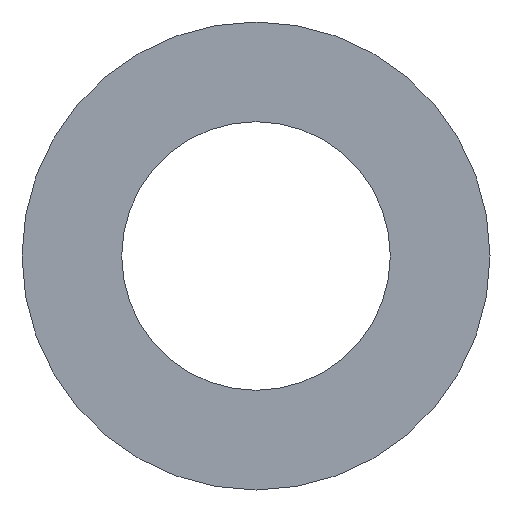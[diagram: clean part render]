
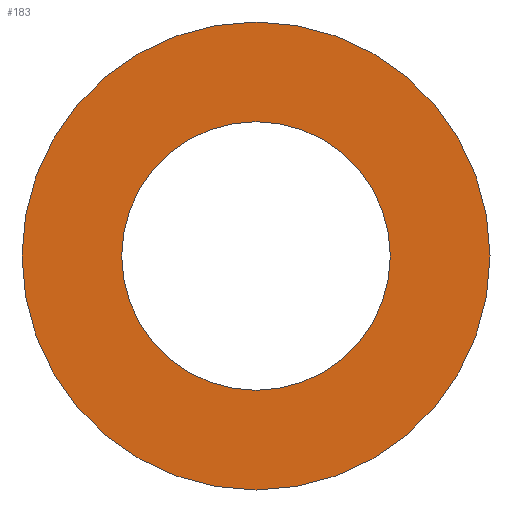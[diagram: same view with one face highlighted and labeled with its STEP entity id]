
A CAD part, left-side view. The second image highlights one B-rep face of the part: STEP entity #183.
In plain terms, the highlighted planar face has unit normal (-1, 0, 0).
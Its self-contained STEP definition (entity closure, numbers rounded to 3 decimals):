
#33=CARTESIAN_POINT('',(0.,69.,0.));
#34=VERTEX_POINT('',#33);
#41=CARTESIAN_POINT('',(0.,0.,0.));
#42=DIRECTION('',(1.,0.,0.));
#43=DIRECTION('',(0.,1.,0.));
#44=AXIS2_PLACEMENT_3D('',#41,#42,#43);
#45=CIRCLE('',#44,69.);
#46=EDGE_CURVE('',#34,#34,#45,.T.);
#148=CARTESIAN_POINT('',(0.,39.6,0.));
#149=VERTEX_POINT('',#148);
#156=CARTESIAN_POINT('',(0.,0.,0.));
#157=DIRECTION('',(1.,0.,0.));
#158=DIRECTION('',(0.,1.,0.));
#159=AXIS2_PLACEMENT_3D('',#156,#157,#158);
#160=CIRCLE('',#159,39.6);
#161=EDGE_CURVE('',#149,#149,#160,.T.);
#172=ORIENTED_EDGE('',*,*,#46,.F.);
#173=EDGE_LOOP('',(#172));
#174=FACE_OUTER_BOUND('',#173,.T.);
#175=ORIENTED_EDGE('',*,*,#161,.T.);
#176=EDGE_LOOP('',(#175));
#177=FACE_BOUND('',#176,.T.);
#178=CARTESIAN_POINT('',(0.,54.3,0.));
#179=DIRECTION('',(-1.,0.,0.));
#180=DIRECTION('',(0.,-1.,0.));
#181=AXIS2_PLACEMENT_3D('',#178,#179,#180);
#182=PLANE('',#181);
#183=ADVANCED_FACE('',(#174,#177),#182,.T.);
